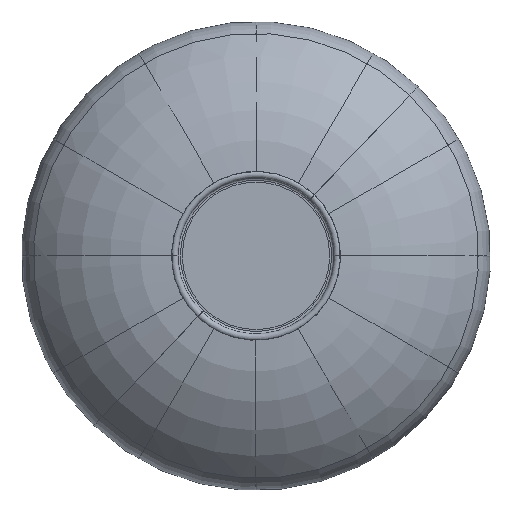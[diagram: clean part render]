
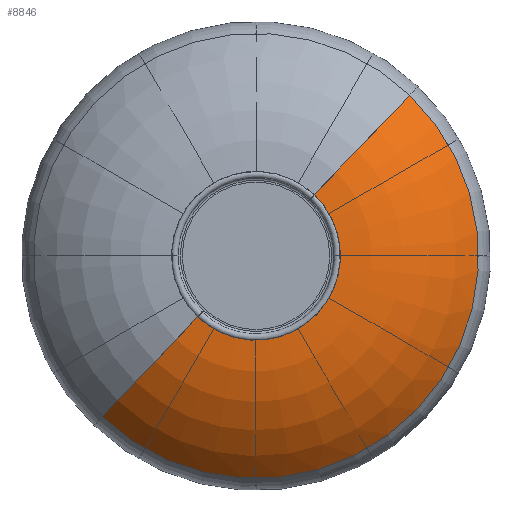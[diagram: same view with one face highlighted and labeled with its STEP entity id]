
A CAD part, top view. The second image highlights one B-rep face of the part: STEP entity #8846.
In plain terms, the highlighted toroidal (fillet/blend) face has major radius 68 mm and minor radius 152 mm.
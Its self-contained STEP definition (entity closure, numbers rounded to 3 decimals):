
#435 = CARTESIAN_POINT ( 'NONE',  ( -68., 148., 0. ) ) ;
#810 = DIRECTION ( 'NONE',  ( 0., 0., -1. ) ) ;
#1078 = DIRECTION ( 'NONE',  ( 1., 0., 0. ) ) ;
#1655 = ORIENTED_EDGE ( 'NONE', *, *, #3348, .F. ) ;
#1738 = CARTESIAN_POINT ( 'NONE',  ( 0., 148., 0. ) ) ;
#1883 = CARTESIAN_POINT ( 'NONE',  ( -184.059, 49.846, 0. ) ) ;
#2047 = CIRCLE ( 'NONE', #10657, 152. ) ;
#2147 = CIRCLE ( 'NONE', #2726, 69.832 ) ;
#2462 = EDGE_CURVE ( 'NONE', #13129, #5415, #2147, .T. ) ;
#2487 = EDGE_CURVE ( 'NONE', #6604, #5721, #11448, .T. ) ;
#2726 = AXIS2_PLACEMENT_3D ( 'NONE', #9330, #8190, #1078 ) ;
#3348 = EDGE_CURVE ( 'NONE', #6604, #13129, #12737, .T. ) ;
#3575 = CARTESIAN_POINT ( 'NONE',  ( 0., 49.846, 0. ) ) ;
#4427 = TOROIDAL_SURFACE ( 'NONE', #4581, 68., 152. ) ;
#4581 = AXIS2_PLACEMENT_3D ( 'NONE', #1738, #10773, #9515 ) ;
#4701 = EDGE_CURVE ( 'NONE', #5721, #5415, #2047, .T. ) ;
#4819 = ORIENTED_EDGE ( 'NONE', *, *, #2487, .T. ) ;
#5415 = VERTEX_POINT ( 'NONE', #5601 ) ;
#5601 = CARTESIAN_POINT ( 'NONE',  ( 69.832, -3.989, 0. ) ) ;
#5721 = VERTEX_POINT ( 'NONE', #11559 ) ;
#5724 = DIRECTION ( 'NONE',  ( 0., 0., 1. ) ) ;
#6178 = EDGE_LOOP ( 'NONE', ( #1655, #4819, #10523, #8420 ) ) ;
#6604 = VERTEX_POINT ( 'NONE', #1883 ) ;
#7002 = DIRECTION ( 'NONE',  ( -1., 0., 0. ) ) ;
#7179 = FACE_OUTER_BOUND ( 'NONE', #6178, .T. ) ;
#7216 = AXIS2_PLACEMENT_3D ( 'NONE', #435, #5724, #13027 ) ;
#7764 = DIRECTION ( 'NONE',  ( 0., -1., 0. ) ) ;
#7814 = DIRECTION ( 'NONE',  ( 1., 0., 0. ) ) ;
#8122 = CARTESIAN_POINT ( 'NONE',  ( -69.832, -3.989, 0. ) ) ;
#8190 = DIRECTION ( 'NONE',  ( 0., -1., 0. ) ) ;
#8420 = ORIENTED_EDGE ( 'NONE', *, *, #2462, .F. ) ;
#8846 = ADVANCED_FACE ( 'NONE', ( #7179 ), #4427, .T. ) ;
#9330 = CARTESIAN_POINT ( 'NONE',  ( 0., -3.989, 0. ) ) ;
#9515 = DIRECTION ( 'NONE',  ( 1., 0., 0. ) ) ;
#10523 = ORIENTED_EDGE ( 'NONE', *, *, #4701, .T. ) ;
#10657 = AXIS2_PLACEMENT_3D ( 'NONE', #13262, #810, #7002 ) ;
#10773 = DIRECTION ( 'NONE',  ( 0., -1., 0. ) ) ;
#10929 = AXIS2_PLACEMENT_3D ( 'NONE', #3575, #7764, #7814 ) ;
#11448 = CIRCLE ( 'NONE', #10929, 184.059 ) ;
#11559 = CARTESIAN_POINT ( 'NONE',  ( 184.059, 49.846, 0. ) ) ;
#12737 = CIRCLE ( 'NONE', #7216, 152. ) ;
#13027 = DIRECTION ( 'NONE',  ( 1., 0., 0. ) ) ;
#13129 = VERTEX_POINT ( 'NONE', #8122 ) ;
#13262 = CARTESIAN_POINT ( 'NONE',  ( 68., 148., 0. ) ) ;
